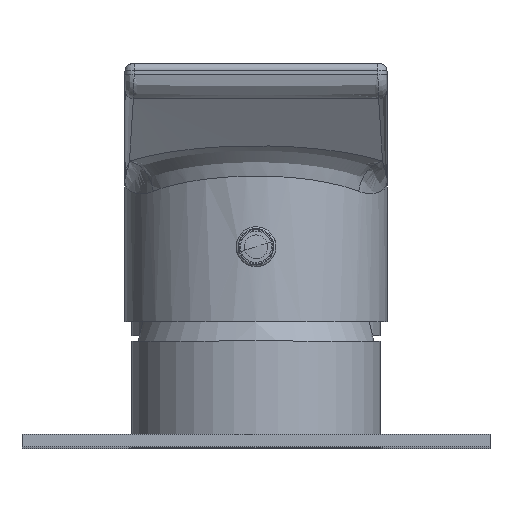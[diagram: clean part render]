
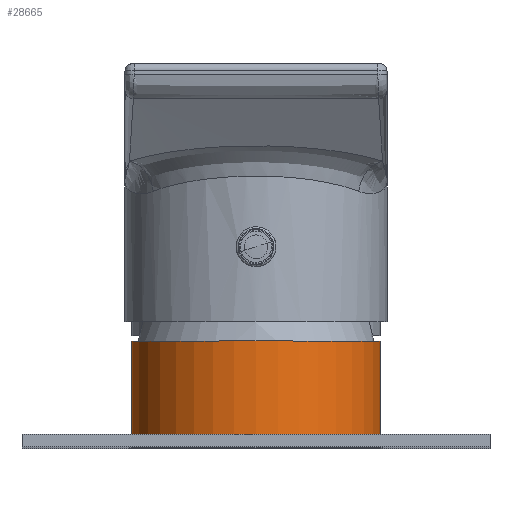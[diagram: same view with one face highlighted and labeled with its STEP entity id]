
A CAD part, top view. The second image highlights one B-rep face of the part: STEP entity #28665.
In plain terms, the highlighted cylindrical face has radius 20 mm (diameter 40 mm), a partial arc.
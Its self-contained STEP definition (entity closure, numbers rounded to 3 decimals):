
#10363=CARTESIAN_POINT('',(0.,80.,-67.5));
#10364=DIRECTION('',(0.,1.,0.));
#10365=DIRECTION('',(-1.,0.,0.));
#10366=AXIS2_PLACEMENT_3D('',#10363,#10364,#10365);
#10368=DIRECTION('',(0.,1.,0.));
#10369=VECTOR('',#10368,17.);
#10370=CARTESIAN_POINT('',(-20.,80.,-67.5));
#10371=LINE('',#10370,#10369);
#10372=DIRECTION('',(0.,1.,0.));
#10373=VECTOR('',#10372,17.);
#10374=CARTESIAN_POINT('',(20.,80.,-67.5));
#10375=LINE('',#10374,#10373);
#10376=CARTESIAN_POINT('',(0.,97.,-67.5));
#10377=DIRECTION('',(0.,-1.,0.));
#10378=DIRECTION('',(1.,0.,0.));
#10379=AXIS2_PLACEMENT_3D('',#10376,#10377,#10378);
#23797=CARTESIAN_POINT('',(20.,97.,-67.5));
#23798=CARTESIAN_POINT('',(-20.,97.,-67.5));
#23799=VERTEX_POINT('',#23797);
#23800=VERTEX_POINT('',#23798);
#23831=CARTESIAN_POINT('',(20.,80.,-67.5));
#23832=CARTESIAN_POINT('',(-20.,80.,-67.5));
#23833=VERTEX_POINT('',#23831);
#23834=VERTEX_POINT('',#23832);
#28653=CARTESIAN_POINT('',(0.,53.425,-67.5));
#28654=DIRECTION('',(0.,1.,0.));
#28655=DIRECTION('',(1.,0.,0.));
#28656=AXIS2_PLACEMENT_3D('',#28653,#28654,#28655);
#28657=CYLINDRICAL_SURFACE('',#28656,20.);
#28658=ORIENTED_EDGE('',*,*,#28628,.F.);
#28659=ORIENTED_EDGE('',*,*,#28648,.T.);
#28661=ORIENTED_EDGE('',*,*,#28660,.F.);
#28662=ORIENTED_EDGE('',*,*,#28644,.F.);
#28663=EDGE_LOOP('',(#28658,#28659,#28661,#28662));
#28664=FACE_OUTER_BOUND('',#28663,.F.);
#28665=ADVANCED_FACE('',(#28664),#28657,.T.);
#10367=CIRCLE('',#10366,20.);
#10380=CIRCLE('',#10379,20.);
#28628=EDGE_CURVE('',#23834,#23833,#10367,.T.);
#28644=EDGE_CURVE('',#23833,#23799,#10375,.T.);
#28648=EDGE_CURVE('',#23834,#23800,#10371,.T.);
#28660=EDGE_CURVE('',#23799,#23800,#10380,.T.);
